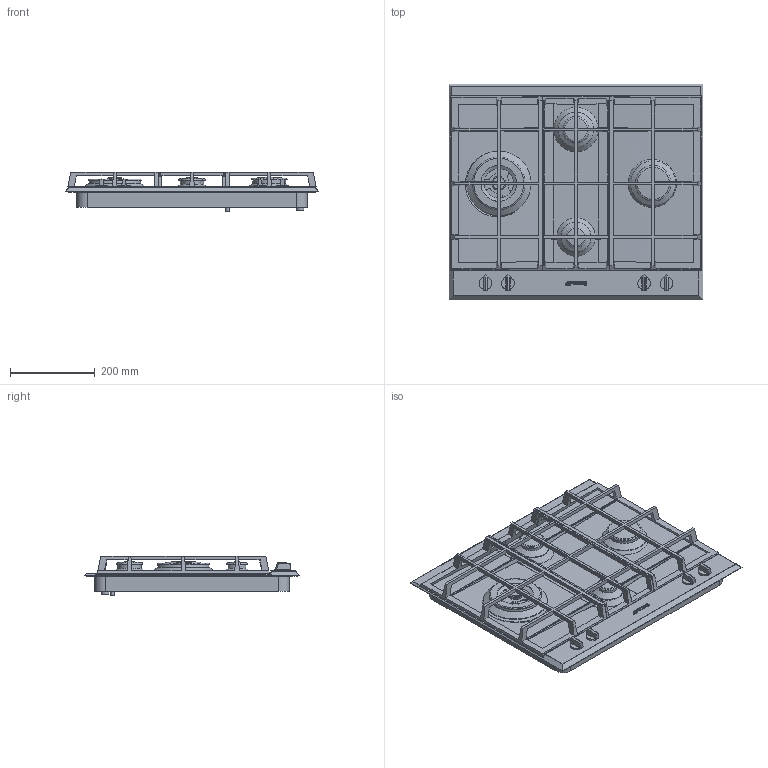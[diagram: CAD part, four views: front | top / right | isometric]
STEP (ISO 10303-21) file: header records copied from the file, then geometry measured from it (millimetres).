
FILE_DESCRIPTION(/* description */ (''),/* implementation_level */ '2;1');
FILE_NAME(/* name */ 'piano p261xgh.stp',/* time_stamp */ '2019-03-04T16:34:16+01:00',/* author */ (''),/* organization */ (''),/* preprocessor_version */ 'ST-DEVELOPER v16',/* originating_system */ 'SIEMENS PLM Software NX 11.0',/* authorisation */ '');
FILE_SCHEMA (('AUTOMOTIVE_DESIGN { 1 0 10303 214 3 1 1 1 }'));
Length unit declared in the file: millimetre
Products named in the file (1): gobb21F4FF15tzrb
Bounding box: 600 x 510 x 94.13 mm (x, y, z)
Volume: 5462333.4 mm3; surface area: 1940873.9 mm2
Topology: 30 solids, 30 shells, 596 faces, 1557 edges, 1028 vertices
Faces by surface type: plane 406, cylinder 139, cone 13, bspline 12, extrusion 11, torus 9, sphere 6
Full cylindrical faces by diameter (mm): 4.608 x6, 7 x8, 8 x1, 13.003 x1, 14.603 x1, 16 x4, 18 x2, 23 x5, 23.5 x1, 24.6 x4, 26 x1, 28 x1, 30 x4, 32 x1, 42 x1, 43 x1, 55 x1, 56 x1, 64.4 x1, 70.5 x1, 77.5 x1, 78.4 x1, 78.5 x1, 79.5 x1, 83 x1, 85 x1, 89.5 x1, 90 x1, 98.4 x1, 98.5 x1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
Entity records: 18947 total; most frequent: CARTESIAN_POINT 4517, ORIENTED_EDGE 2866, DIRECTION 2802, EDGE_CURVE 1433, VERTEX_POINT 994, VECTOR 956, LINE 945, AXIS2_PLACEMENT_3D 923
